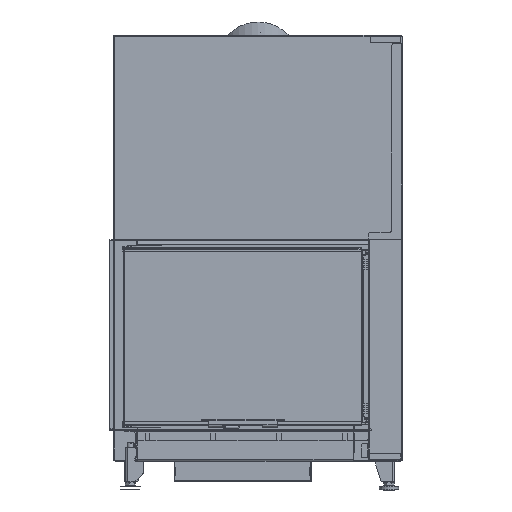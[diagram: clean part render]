
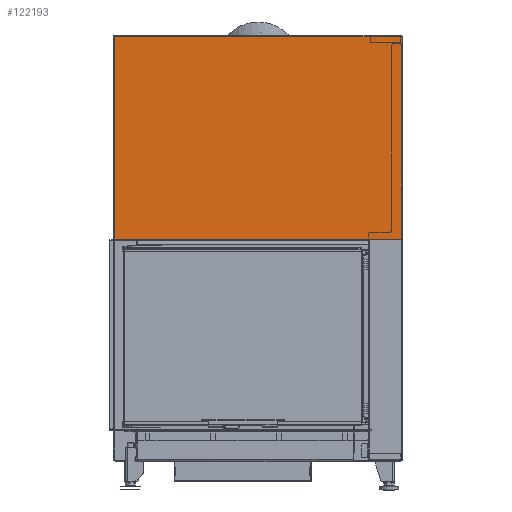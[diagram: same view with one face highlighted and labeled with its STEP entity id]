
A CAD part, front view. The second image highlights one B-rep face of the part: STEP entity #122193.
In plain terms, the highlighted planar face has unit normal (0, -1, 0).
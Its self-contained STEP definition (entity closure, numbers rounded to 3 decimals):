
#7428=FACE_OUTER_BOUND('',#14086,.T.);
#14086=EDGE_LOOP('',(#89103,#89104,#89105,#89106,#89107,#89108,#89109,#89110,
#89111,#89112,#89113));
#18243=CIRCLE('',#126664,0.1);
#18245=CIRCLE('',#126669,3.);
#20189=CIRCLE('',#131085,3.);
#23555=LINE('',#173914,#34855);
#23559=LINE('',#173923,#34859);
#23561=LINE('',#173927,#34861);
#27880=LINE('',#190952,#39180);
#27888=LINE('',#190969,#39188);
#27889=LINE('',#190972,#39189);
#27890=LINE('',#190974,#39190);
#27891=LINE('',#190975,#39191);
#34855=VECTOR('',#139242,10.);
#34859=VECTOR('',#139252,10.);
#34861=VECTOR('',#139256,10.);
#39180=VECTOR('',#152407,10.);
#39188=VECTOR('',#152419,10.);
#39189=VECTOR('',#152422,10.);
#39190=VECTOR('',#152423,10.);
#39191=VECTOR('',#152424,10.);
#46140=VERTEX_POINT('',#173911);
#46141=VERTEX_POINT('',#173913);
#46142=VERTEX_POINT('',#173917);
#46143=VERTEX_POINT('',#173921);
#46144=VERTEX_POINT('',#173925);
#46146=VERTEX_POINT('',#173931);
#50353=VERTEX_POINT('',#190949);
#50354=VERTEX_POINT('',#190951);
#50361=VERTEX_POINT('',#190968);
#50362=VERTEX_POINT('',#190971);
#50363=VERTEX_POINT('',#190973);
#57432=EDGE_CURVE('',#46140,#46141,#23555,.T.);
#57435=EDGE_CURVE('',#46142,#46140,#18243,.T.);
#57437=EDGE_CURVE('',#46143,#46142,#23559,.T.);
#57439=EDGE_CURVE('',#46144,#46143,#23561,.T.);
#57442=EDGE_CURVE('',#46144,#46146,#18245,.T.);
#64177=EDGE_CURVE('',#50353,#50354,#27880,.T.);
#64185=EDGE_CURVE('',#50361,#46146,#27888,.T.);
#64186=EDGE_CURVE('',#50361,#50354,#20189,.T.);
#64187=EDGE_CURVE('',#50362,#50353,#27889,.T.);
#64188=EDGE_CURVE('',#50363,#50362,#27890,.T.);
#64189=EDGE_CURVE('',#46141,#50363,#27891,.T.);
#89103=ORIENTED_EDGE('',*,*,#57442,.T.);
#89104=ORIENTED_EDGE('',*,*,#64185,.F.);
#89105=ORIENTED_EDGE('',*,*,#64186,.T.);
#89106=ORIENTED_EDGE('',*,*,#64177,.F.);
#89107=ORIENTED_EDGE('',*,*,#64187,.F.);
#89108=ORIENTED_EDGE('',*,*,#64188,.F.);
#89109=ORIENTED_EDGE('',*,*,#64189,.F.);
#89110=ORIENTED_EDGE('',*,*,#57432,.F.);
#89111=ORIENTED_EDGE('',*,*,#57435,.F.);
#89112=ORIENTED_EDGE('',*,*,#57437,.F.);
#89113=ORIENTED_EDGE('',*,*,#57439,.F.);
#110842=PLANE('',#131084);
#122193=ADVANCED_FACE('',(#7428),#110842,.F.);
#126664=AXIS2_PLACEMENT_3D('',#173919,#139247,#139248);
#126669=AXIS2_PLACEMENT_3D('',#173933,#139262,#139263);
#131084=AXIS2_PLACEMENT_3D('',#190967,#152417,#152418);
#131085=AXIS2_PLACEMENT_3D('',#190970,#152420,#152421);
#139242=DIRECTION('',(0.,0.,-1.));
#139247=DIRECTION('center_axis',(0.,-1.,
0.));
#139248=DIRECTION('ref_axis',(-1.,0.,0.));
#139252=DIRECTION('',(0.,0.,1.));
#139256=DIRECTION('',(-1.,0.,0.));
#139262=DIRECTION('center_axis',(0.,-1.,
0.));
#139263=DIRECTION('ref_axis',(0.707,0.,-0.707));
#152407=DIRECTION('',(1.,0.,0.));
#152417=DIRECTION('center_axis',(0.,1.,
0.));
#152418=DIRECTION('ref_axis',(-1.,0.,0.));
#152419=DIRECTION('',(0.,0.,-1.));
#152420=DIRECTION('center_axis',(0.,-1.,
0.));
#152421=DIRECTION('ref_axis',(0.707,0.,0.707));
#152422=DIRECTION('',(1.,0.,0.));
#152423=DIRECTION('',(0.,0.,1.));
#152424=DIRECTION('',(-1.,0.,0.));
#173911=CARTESIAN_POINT('',(-87.4,-59.998,582.359));
#173913=CARTESIAN_POINT('',(-87.4,-59.998,582.259));
#173914=CARTESIAN_POINT('',(-87.4,-59.994,715.947));
#173917=CARTESIAN_POINT('',(-87.2,-59.998,582.359));
#173919=CARTESIAN_POINT('Origin',(-87.3,-59.998,582.359));
#173921=CARTESIAN_POINT('',(-87.2,-59.998,582.259));
#173923=CARTESIAN_POINT('',(-87.2,-59.994,715.997));
#173925=CARTESIAN_POINT('',(-3.,-59.998,582.259));
#173927=CARTESIAN_POINT('',(0.,-59.998,582.259));
#173931=CARTESIAN_POINT('',(0.,-59.998,585.259));
#173933=CARTESIAN_POINT('Origin',(-3.,-59.998,585.259));
#190949=CARTESIAN_POINT('',(-84.15,-59.983,1114.259));
#190951=CARTESIAN_POINT('',(-3.,-59.983,1114.259));
#190952=CARTESIAN_POINT('',(-84.15,-59.983,1114.259));
#190967=CARTESIAN_POINT('Origin',(-420.775,-59.99,849.634));
#190968=CARTESIAN_POINT('',(0.,-59.983,1111.259));
#190969=CARTESIAN_POINT('',(0.,-59.983,1114.259));
#190970=CARTESIAN_POINT('Origin',(-3.,-59.983,1111.259));
#190971=CARTESIAN_POINT('',(-754.65,-59.983,1114.259));
#190972=CARTESIAN_POINT('',(-589.088,-59.983,1114.259));
#190973=CARTESIAN_POINT('',(-754.65,-59.998,582.259));
#190974=CARTESIAN_POINT('',(-754.65,-59.994,715.947));
#190975=CARTESIAN_POINT('',(0.,-59.998,582.259));
